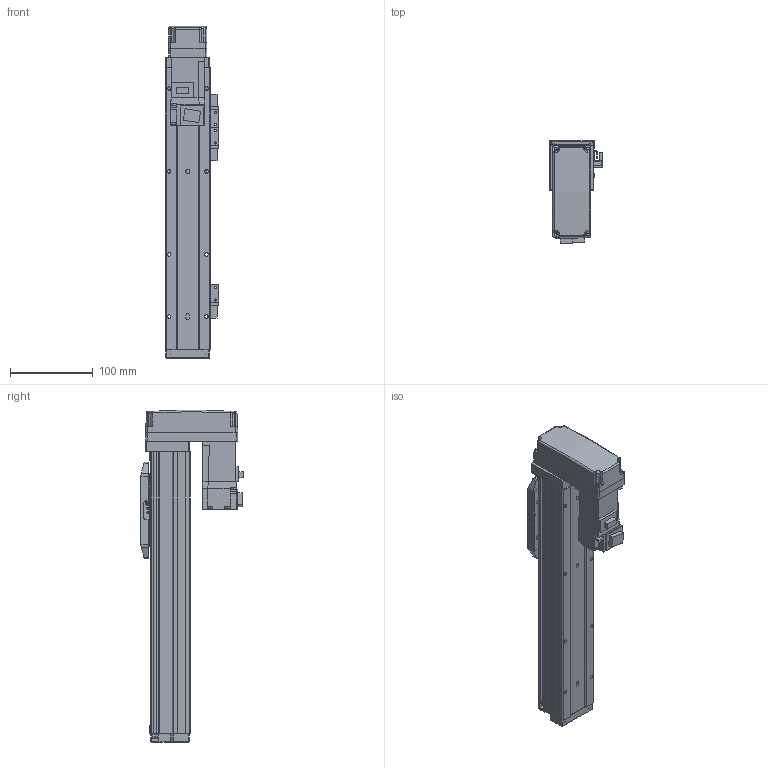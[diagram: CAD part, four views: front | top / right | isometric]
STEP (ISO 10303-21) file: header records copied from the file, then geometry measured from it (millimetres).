
FILE_DESCRIPTION (( 'STEP AP214' ), '1' );
FILE_NAME ('N_GRH5-200-BM-M10.step', '2025-03-14T10:50:38', ( '' ), ( '' ), 'SwSTEP 2.0', 'SolidWorks 2016', '' );
FILE_SCHEMA (( 'AUTOMOTIVE_DESIGN' ));
Length unit declared in the file: millimetre
Products named in the file (5): N_GRH5-200-BM-M10; N_GRH5-BL-008^N_GRH5-200-BM-M10; N_GRH5-GY-004^N_GRH5-200-BM-M10; N_GRH5-GY-011^N_GRH5-200-BM-M10; HF-KP13_100W_Motor^N_GRH5-200-BM-M10
Assembly tree (4 placements, depth 2):
  N_GRH5-200-BM-M10
    N_GRH5-GY-011^N_GRH5-200-BM-M10
    N_GRH5-GY-004^N_GRH5-200-BM-M10
    HF-KP13_100W_Motor^N_GRH5-200-BM-M10
    N_GRH5-BL-008^N_GRH5-200-BM-M10
Bounding box: 64.05 x 123.7 x 400.5 mm (x, y, z)
Volume: 977867.8 mm3; surface area: 230213.1 mm2
Topology: 4 solids, 5 shells, 924 faces, 2360 edges, 1493 vertices
Faces by surface type: plane 545, cylinder 304, cone 50, bspline 15, sphere 10
Entity records: 35235 total; most frequent: CARTESIAN_POINT 5543, DIRECTION 4745, ORIENTED_EDGE 4656, EDGE_CURVE 2328, VECTOR 1627, LINE 1627, AXIS2_PLACEMENT_3D 1559, VERTEX_POINT 1491
